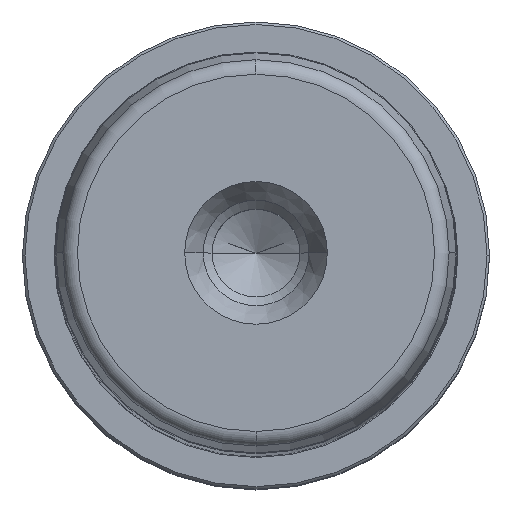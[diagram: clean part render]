
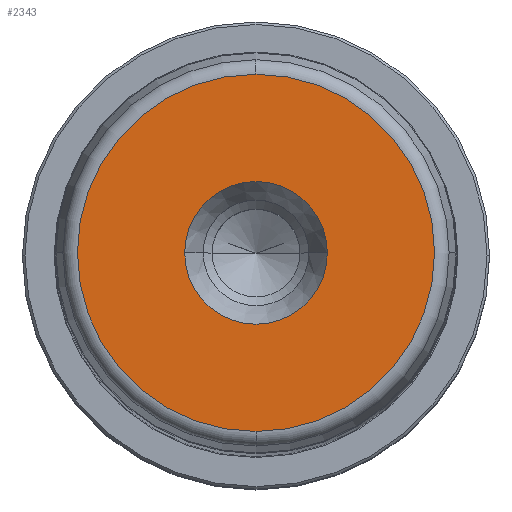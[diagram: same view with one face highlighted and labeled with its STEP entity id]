
A CAD part, top view. The second image highlights one B-rep face of the part: STEP entity #2343.
In plain terms, the highlighted planar face has unit normal (0, 0, 1).
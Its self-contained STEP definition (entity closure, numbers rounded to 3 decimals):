
#431=CARTESIAN_POINT('',(14.2,0.,315.0));
#432=VERTEX_POINT('',#431);
#439=CARTESIAN_POINT('',(-14.2,0.,315.0));
#440=VERTEX_POINT('',#439);
#441=CARTESIAN_POINT('',(0.0,0.,315.0));
#442=DIRECTION('',(0.0,0.0,1.0));
#443=DIRECTION('',(1.0,0.0,0.0));
#444=AXIS2_PLACEMENT_3D('',#441,#442,#443);
#445=CIRCLE('',#444,14.2);
#446=EDGE_CURVE('',#432,#440,#445,.T.);
#463=CARTESIAN_POINT('',(0.0,-35.554,315.0));
#464=VERTEX_POINT('',#463);
#474=CARTESIAN_POINT('',(0.,35.554,315.0));
#475=VERTEX_POINT('',#474);
#476=CARTESIAN_POINT('',(0.0,0.,315.0));
#477=DIRECTION('',(0.0,0.0,1.0));
#478=DIRECTION('',(1.0,0.0,0.0));
#479=AXIS2_PLACEMENT_3D('',#476,#477,#478);
#480=CIRCLE('',#479,35.554);
#481=EDGE_CURVE('',#475,#464,#480,.T.);
#2304=CARTESIAN_POINT('',(35.554,0.,315.0));
#2305=VERTEX_POINT('',#2304);
#2306=CARTESIAN_POINT('',(0.0,0.,315.0));
#2307=DIRECTION('',(0.0,0.0,1.0));
#2308=DIRECTION('',(1.0,0.0,0.0));
#2309=AXIS2_PLACEMENT_3D('',#2306,#2307,#2308);
#2310=CIRCLE('',#2309,35.554);
#2311=EDGE_CURVE('',#2305,#475,#2310,.T.);
#2313=CARTESIAN_POINT('',(0.0,0.,315.0));
#2314=DIRECTION('',(0.0,0.0,1.0));
#2315=DIRECTION('',(1.0,0.0,0.0));
#2316=AXIS2_PLACEMENT_3D('',#2313,#2314,#2315);
#2317=CIRCLE('',#2316,35.554);
#2318=EDGE_CURVE('',#464,#2305,#2317,.T.);
#2323=CARTESIAN_POINT('',(24.877,0.,315.0));
#2324=DIRECTION('',(0.0,0.0,1.0));
#2325=DIRECTION('',(0.0,-1.0,0.0));
#2326=AXIS2_PLACEMENT_3D('',#2323,#2324,#2325);
#2327=PLANE('',#2326);
#2328=ORIENTED_EDGE('',*,*,#2311,.T.);
#2329=ORIENTED_EDGE('',*,*,#481,.T.);
#2330=ORIENTED_EDGE('',*,*,#2318,.T.);
#2331=EDGE_LOOP('',(#2328,#2329,#2330));
#2332=FACE_OUTER_BOUND('',#2331,.T.);
#2333=ORIENTED_EDGE('',*,*,#446,.F.);
#2334=CARTESIAN_POINT('',(0.0,0.,315.0));
#2335=DIRECTION('',(0.0,0.0,1.0));
#2336=DIRECTION('',(1.0,0.0,0.0));
#2337=AXIS2_PLACEMENT_3D('',#2334,#2335,#2336);
#2338=CIRCLE('',#2337,14.2);
#2339=EDGE_CURVE('',#440,#432,#2338,.T.);
#2340=ORIENTED_EDGE('',*,*,#2339,.F.);
#2341=EDGE_LOOP('',(#2333,#2340));
#2342=FACE_BOUND('',#2341,.T.);
#2343=ADVANCED_FACE('',(#2332,#2342),#2327,.T.);
